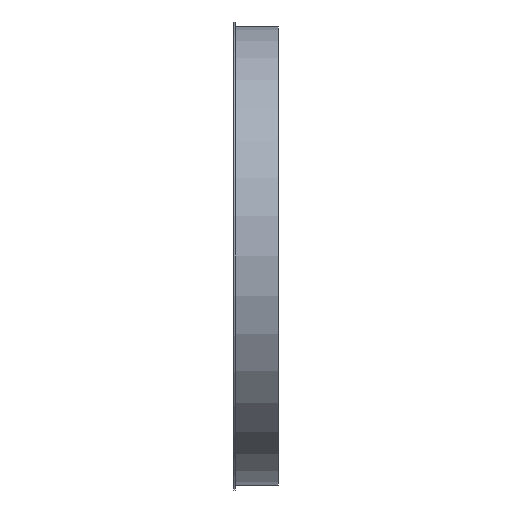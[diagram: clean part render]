
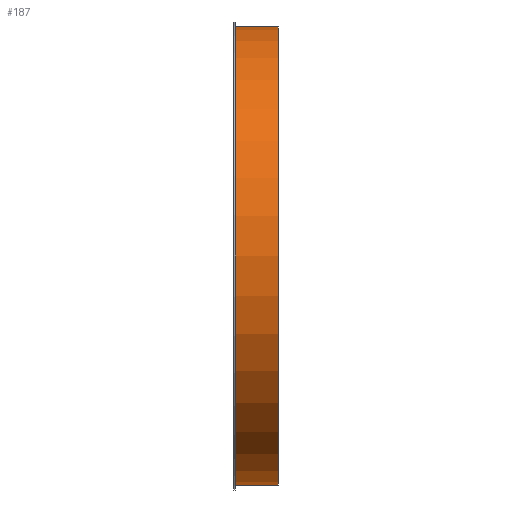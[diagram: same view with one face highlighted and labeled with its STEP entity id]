
A CAD part, front view. The second image highlights one B-rep face of the part: STEP entity #187.
In plain terms, the highlighted cylindrical face has radius 281 mm (diameter 562 mm), a full revolution.
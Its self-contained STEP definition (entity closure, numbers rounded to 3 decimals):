
#112=CARTESIAN_POINT('',(-15.,0.,0.0));
#113=VERTEX_POINT('',#112);
#114=CARTESIAN_POINT('',(-15.,281.0,0.0));
#115=DIRECTION('',(-1.0,0.0,0.0));
#116=DIRECTION('',(0.0,-1.0,0.0));
#117=AXIS2_PLACEMENT_3D('',#114,#115,#116);
#118=CIRCLE('',#117,281.0);
#119=EDGE_CURVE('',#113,#113,#118,.T.);
#161=CARTESIAN_POINT('',(38.0,0.,0.0));
#162=VERTEX_POINT('',#161);
#163=CARTESIAN_POINT('',(38.0,281.0,0.0));
#164=DIRECTION('',(-1.0,0.0,0.0));
#165=DIRECTION('',(0.0,-1.0,0.0));
#166=AXIS2_PLACEMENT_3D('',#163,#164,#165);
#167=CIRCLE('',#166,281.0);
#168=EDGE_CURVE('',#162,#162,#167,.T.);
#176=CARTESIAN_POINT('',(11.5,281.0,0.0));
#177=DIRECTION('',(-1.0,0.0,0.0));
#178=DIRECTION('',(0.0,-1.0,0.0));
#179=AXIS2_PLACEMENT_3D('',#176,#177,#178);
#180=CYLINDRICAL_SURFACE('',#179,281.0);
#181=ORIENTED_EDGE('',*,*,#119,.F.);
#182=EDGE_LOOP('',(#181));
#183=FACE_OUTER_BOUND('',#182,.T.);
#184=ORIENTED_EDGE('',*,*,#168,.T.);
#185=EDGE_LOOP('',(#184));
#186=FACE_BOUND('',#185,.T.);
#187=ADVANCED_FACE('',(#183,#186),#180,.T.);
